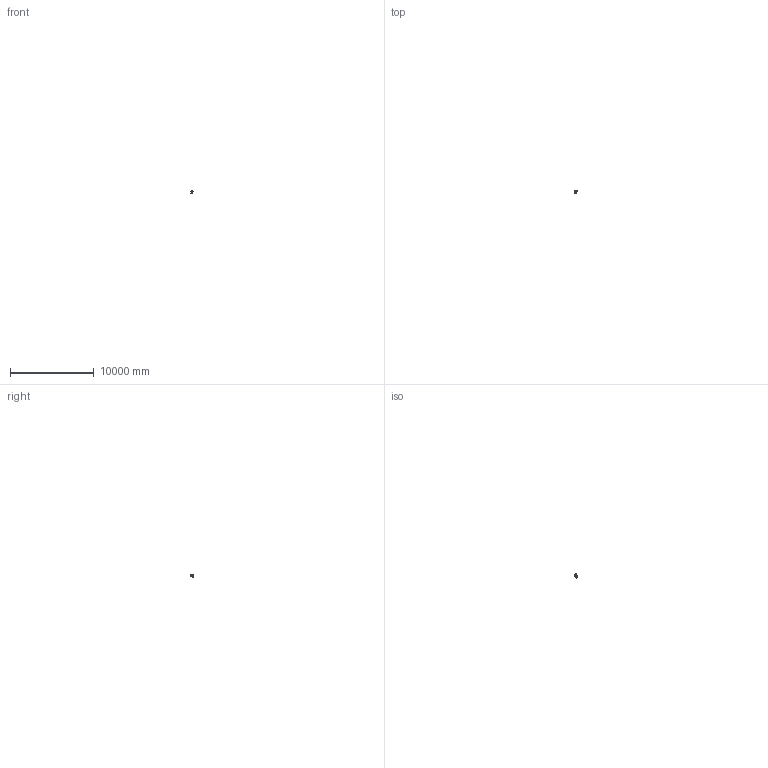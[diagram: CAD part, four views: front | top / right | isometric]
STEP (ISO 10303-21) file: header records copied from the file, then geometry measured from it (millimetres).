
FILE_DESCRIPTION(('STEP AP203'), '1');
FILE_NAME('ÇÀÐÄÏ 080.100.40-ÕÕ.Ð.stp', '2013-12-10T10:47:39', ('Ñèçîâ À.Í.'), ('ÎÎÎ "ÈÊ Ýíåðïðåä-ßðäîñ"'), 'ASCON STEP Converter 1.3', 'Kompas 3D', '');
FILE_SCHEMA(('CONFIG_CONTROL_DESIGN','SUPPORT_RESOURCE_SCHEMA'));
Length unit declared in the file: millimetre
Products named in the file (1): 1
Bounding box: 356 x 464.23 x 348 mm (x, y, z)
Topology: 0 solids, 1 shells, 2831 faces, 6887 edges, 4308 vertices
Faces by surface type: plane 1189, cylinder 637, cone 442, bspline 304, torus 203, extrusion 29, sphere 27
Full cylindrical faces by diameter (mm): 3.242 x2, 5 x4, 5.6 x3, 6.1 x2, 6.647 x8, 8 x4, 8.376 x4, 9 x4, 10.106 x4, 12 x48, 12.1 x4, 13 x24, 14.7 x1, 15.6 x8, 16 x73, 17.33 x1, 18 x44, 18.2 x4, 19 x8, 20 x2, 22 x2, 23.75 x2, 24 x3, 25 x1, 26 x1, 34 x1, 35 x1, 36 x1, 38 x1, 38.2 x1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
Entity records: 189568 total; most frequent: CARTESIAN_POINT 128461, ORIENTED_EDGE 13554, DIRECTION 11237, EDGE_CURVE 6779, AXIS2_PLACEMENT_3D 4413, VERTEX_POINT 4287, EDGE_LOOP 3143, ADVANCED_FACE 2820
